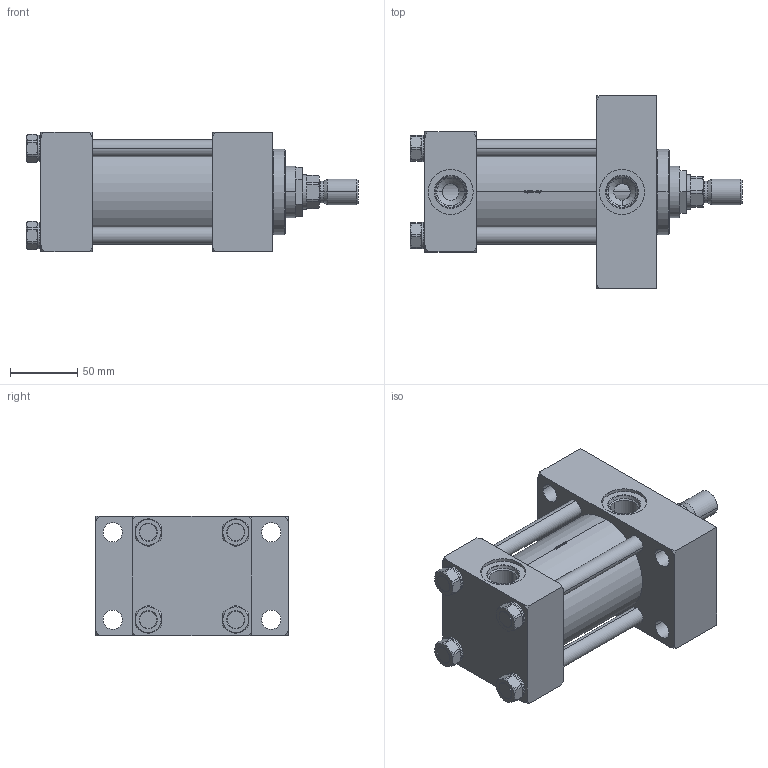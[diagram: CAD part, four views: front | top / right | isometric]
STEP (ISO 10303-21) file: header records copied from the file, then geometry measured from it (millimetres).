
FILE_DESCRIPTION (( 'STEP AP214' ), '1' );
FILE_NAME ('2.50JJ2HHNAT114A2.000.step', '2026-03-26T21:19:42', ( '' ), ( '' ), 'SwSTEP 2.0', 'SolidWorks 2023', '' );
FILE_SCHEMA (( 'AUTOMOTIVE_DESIGN' ));
Length unit declared in the file: inch
Products named in the file (1): 2.50JJ2HHNAT114A2.000
Bounding box: 246.06 x 142.88 x 88.9 mm (x, y, z)
Volume: 1164753.2 mm3; surface area: 237453.6 mm2
Topology: 42 solids, 42 shells, 1614 faces, 4182 edges, 2664 vertices
Faces by surface type: plane 822, cylinder 517, cone 229, bspline 38, torus 8
Entity records: 74149 total; most frequent: CARTESIAN_POINT 14056, ORIENTED_EDGE 8284, DIRECTION 7922, EDGE_CURVE 4142, AXIS2_PLACEMENT_3D 3045, VERTEX_POINT 2664, VECTOR 1832, LINE 1832
